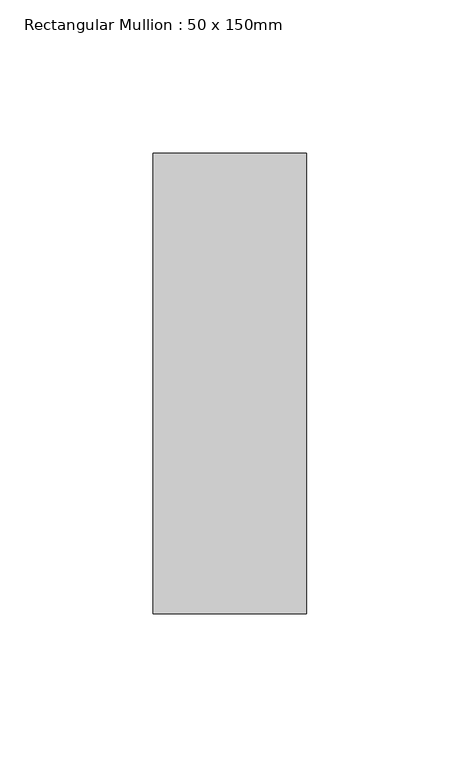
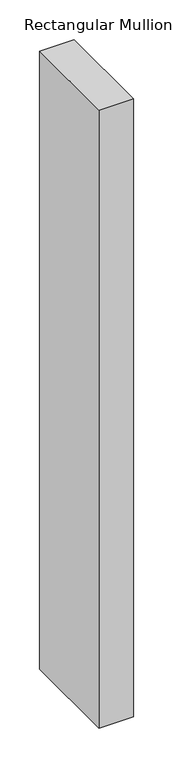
"""IFC4 building model written with IfcOpenShell, lengths in millimetres: member geometry, Rectangular Mullion : 50 x 150mm."""

from ifc_helpers import new_model, si_unit, frame, origin, place, context, project, spatial, polyline, outline, extrude, source, transform, mapped, element, save


def rectangular_mullion_50_x_150mm_12a430f9(model_context):
    return source(origin(), model_context, "Body", "SweptSolid", [
        extrude(outline(polyline([(0.0, 75.0), (0.0, -75.0), (-50.0, -75.0), (-50.0, 75.0), (0.0, 75.0)])), frame((0.0, 0.0, -950.0), z_axis=(0.0, 0.0, 1.0), x_axis=(1.0, 0.0, 0.0)), (0.0, 0.0, 1.0), 950.0),
    ])


if __name__ == "__main__":
    model = new_model("IFC4")
    model_context = context("Model", 3, world=origin())
    ifc_project = project(units=[si_unit("LENGTHUNIT", "METRE", prefix="MILLI")], contexts=[model_context])
    site = spatial("IfcSite", under=ifc_project)
    building = spatial("IfcBuilding", under=site)
    placement = place(None, origin())
    rectangular_mullion_50_x_150mm_shape = rectangular_mullion_50_x_150mm_12a430f9(model_context)
    element("IfcMember", 1, ObjectType="Rectangular Mullion : 50 x 150mm", at=placement, inside=building, context=model_context, shape_type="MappedRepresentation", body=[
        mapped(rectangular_mullion_50_x_150mm_shape, transform((0.0, 0.0, 0.0), x_axis=(1.0, 0.0, 0.0), y_axis=(0.0, 1.0, 0.0), z_axis=(0.0, 0.0, 1.0))),
    ])
    save(model, "model.ifc")
